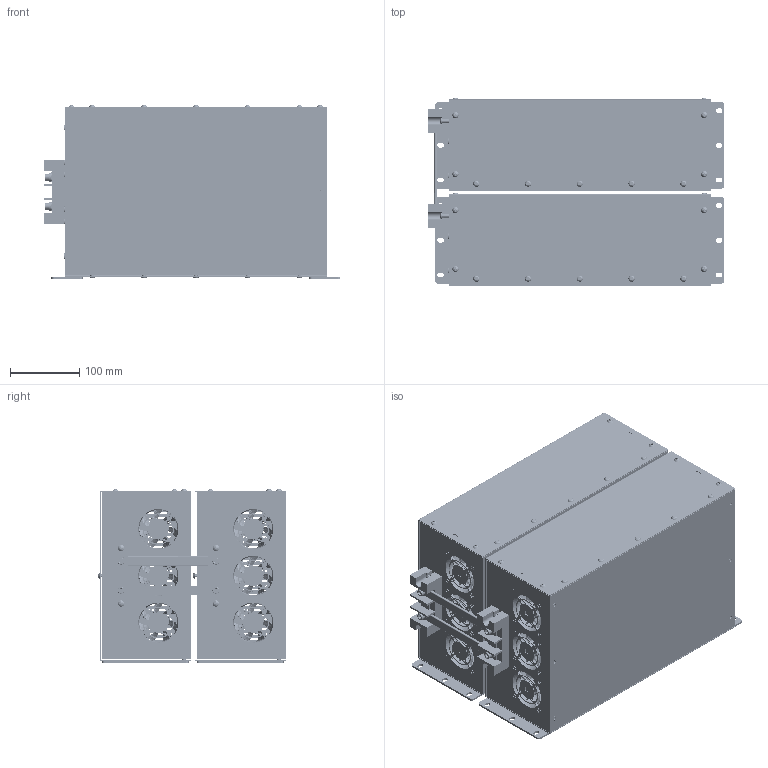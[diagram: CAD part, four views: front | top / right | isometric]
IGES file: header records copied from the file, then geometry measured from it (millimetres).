
Global section: file name: VX3-BUSBAR-V; native system: Autodesk Inventor 2021; preprocessor: unknown; author: eunsol jang; date: 20231107.155646; units: inch
Bounding box: 428 x 271.59 x 250.54 mm (x, y, z)
Volume: 1306923.2 mm3; surface area: 1623336.8 mm2
Topology: 1 solids, 1 shells, 5958 faces, 16170 edges, 10492 vertices
Faces by surface type: bspline 5958
